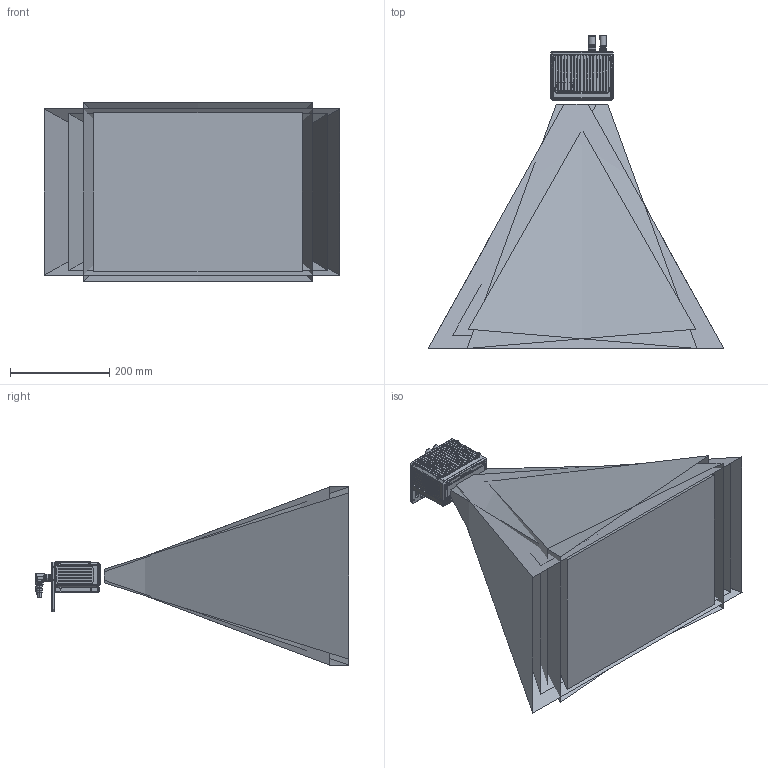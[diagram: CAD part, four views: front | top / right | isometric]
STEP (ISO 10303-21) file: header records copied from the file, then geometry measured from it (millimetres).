
FILE_DESCRIPTION((''),'2;1');
FILE_NAME('00-V069-ZZ-DPS200P-RGBD_ASM_ASM','2026-08-03T21:15:23',('yangtao11'),(''),'CREO PARAMETRIC BY PTC INC, 2020044','CREO PARAMETRIC BY PTC INC, 2020044','');
FILE_SCHEMA(('CONFIG_CONTROL_DESIGN','SHAPE_APPEARANCE_LAYERS_GROUPS'));
Products named in the file (8): 00-V069-ZZ-DPS200P-RG_SW0002_1; 00-V069-ZZ-DPS200P-RG_SW0001_4; 410215147-12PIN-PWR-L_1; 410215160-8PIN-LAN-L_1; DE-14-085638_SW0001_1; SC-PSF0M3X8-BNI--SUS_SW0001_1; 00-V069-ZZ-DPS200P-RGBD_ASM_3_ASM; 00-V069-ZZ-DPS200P-RGBD_ASM_ASM
Assembly tree (10 placements, depth 3):
  00-V069-ZZ-DPS200P-RGBD_ASM_ASM
    00-V069-ZZ-DPS200P-RGBD_ASM_3_ASM
      00-V069-ZZ-DPS200P-RG_SW0002_1
      00-V069-ZZ-DPS200P-RG_SW0001_4
      410215147-12PIN-PWR-L_1
      410215160-8PIN-LAN-L_1
      DE-14-085638_SW0001_1
      SC-PSF0M3X8-BNI--SUS_SW0001_1  x4
Bounding box: 596.25 x 631.97 x 359.04 mm (x, y, z)
Surface area: 2467176.7 mm2 (no closed solid volume)
Topology: 0 solids, 76 shells, 2667 faces, 7850 edges, 5261 vertices
Faces by surface type: plane 1335, cylinder 680, cone 398, bspline 165, torus 83, extrusion 6
Entity records: 119140 total; most frequent: CARTESIAN_POINT 54004, ORIENTED_EDGE 13323, DIRECTION 12869, EDGE_CURVE 7346, VERTEX_POINT 4958, AXIS2_PLACEMENT_3D 4341, VECTOR 4187, LINE 4181
